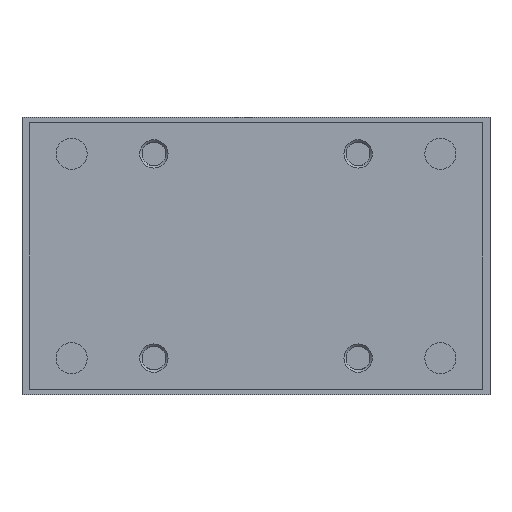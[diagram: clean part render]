
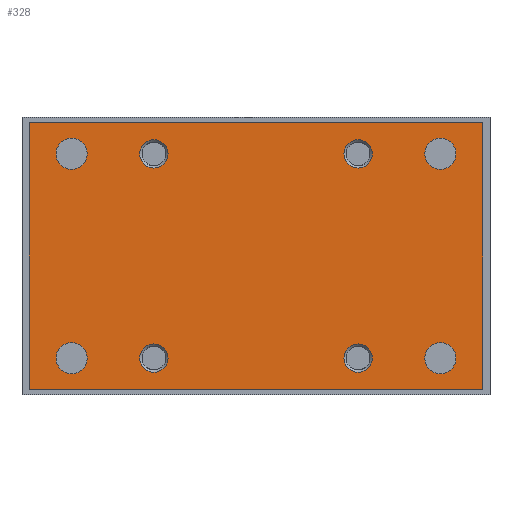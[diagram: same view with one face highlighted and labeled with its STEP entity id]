
A CAD part, left-side view. The second image highlights one B-rep face of the part: STEP entity #328.
In plain terms, the highlighted planar face has unit normal (-1, 0, 0).
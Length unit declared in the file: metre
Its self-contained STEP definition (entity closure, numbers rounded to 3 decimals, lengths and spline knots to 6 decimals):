
#328 = ADVANCED_FACE( '', ( #880, #881, #882, #883, #884, #885, #886, #887, #888 ), #889, .F. );
#880 = FACE_BOUND( '', #1838, .T. );
#881 = FACE_BOUND( '', #1839, .T. );
#882 = FACE_BOUND( '', #1840, .T. );
#883 = FACE_BOUND( '', #1841, .T. );
#884 = FACE_BOUND( '', #1842, .T. );
#885 = FACE_BOUND( '', #1843, .T. );
#886 = FACE_BOUND( '', #1844, .T. );
#887 = FACE_BOUND( '', #1845, .T. );
#888 = FACE_OUTER_BOUND( '', #1846, .T. );
#889 = PLANE( '', #1847 );
#1838 = EDGE_LOOP( '', ( #2881 ) );
#1839 = EDGE_LOOP( '', ( #2882 ) );
#1840 = EDGE_LOOP( '', ( #2883 ) );
#1841 = EDGE_LOOP( '', ( #2884 ) );
#1842 = EDGE_LOOP( '', ( #2885 ) );
#1843 = EDGE_LOOP( '', ( #2886 ) );
#1844 = EDGE_LOOP( '', ( #2887 ) );
#1845 = EDGE_LOOP( '', ( #2888 ) );
#1846 = EDGE_LOOP( '', ( #2889, #2890, #2891, #2892 ) );
#1847 = AXIS2_PLACEMENT_3D( '', #2893, #2894, #2895 );
#2881 = ORIENTED_EDGE( '', *, *, #4585, .T. );
#2882 = ORIENTED_EDGE( '', *, *, #4586, .T. );
#2883 = ORIENTED_EDGE( '', *, *, #4587, .T. );
#2884 = ORIENTED_EDGE( '', *, *, #4588, .T. );
#2885 = ORIENTED_EDGE( '', *, *, #4528, .T. );
#2886 = ORIENTED_EDGE( '', *, *, #4589, .F. );
#2887 = ORIENTED_EDGE( '', *, *, #4505, .F. );
#2888 = ORIENTED_EDGE( '', *, *, #4590, .T. );
#2889 = ORIENTED_EDGE( '', *, *, #4591, .T. );
#2890 = ORIENTED_EDGE( '', *, *, #4518, .T. );
#2891 = ORIENTED_EDGE( '', *, *, #4564, .T. );
#2892 = ORIENTED_EDGE( '', *, *, #4592, .T. );
#2893 = CARTESIAN_POINT( '', ( -0.107, -0.08, -0.096 ) );
#2894 = DIRECTION( '', ( 1., 0., 0. ) );
#2895 = DIRECTION( '', ( 0., 0., -1. ) );
#4505 = EDGE_CURVE( '', #5181, #5181, #5182, .T. );
#4518 = EDGE_CURVE( '', #5206, #5204, #5207, .T. );
#4528 = EDGE_CURVE( '', #5222, #5222, #5223, .T. );
#4564 = EDGE_CURVE( '', #5204, #5280, #5282, .T. );
#4585 = EDGE_CURVE( '', #5316, #5316, #5317, .T. );
#4586 = EDGE_CURVE( '', #5318, #5318, #5319, .T. );
#4587 = EDGE_CURVE( '', #5320, #5320, #5321, .T. );
#4588 = EDGE_CURVE( '', #5322, #5322, #5323, .T. );
#4589 = EDGE_CURVE( '', #5324, #5324, #5325, .T. );
#4590 = EDGE_CURVE( '', #5326, #5326, #5327, .T. );
#4591 = EDGE_CURVE( '', #5328, #5206, #5329, .T. );
#4592 = EDGE_CURVE( '', #5280, #5328, #5330, .T. );
#5181 = VERTEX_POINT( '', #6142 );
#5182 = CIRCLE( '', #6143, 0.005 );
#5204 = VERTEX_POINT( '', #6174 );
#5206 = VERTEX_POINT( '', #6177 );
#5207 = LINE( '', #6178, #6179 );
#5222 = VERTEX_POINT( '', #6195 );
#5223 = CIRCLE( '', #6196, 0.005 );
#5280 = VERTEX_POINT( '', #6302 );
#5282 = LINE( '', #6305, #6306 );
#5316 = VERTEX_POINT( '', #6352 );
#5317 = CIRCLE( '', #6353, 0.0055 );
#5318 = VERTEX_POINT( '', #6354 );
#5319 = CIRCLE( '', #6355, 0.0055 );
#5320 = VERTEX_POINT( '', #6356 );
#5321 = CIRCLE( '', #6357, 0.0055 );
#5322 = VERTEX_POINT( '', #6358 );
#5323 = CIRCLE( '', #6359, 0.0055 );
#5324 = VERTEX_POINT( '', #6360 );
#5325 = CIRCLE( '', #6361, 0.005 );
#5326 = VERTEX_POINT( '', #6362 );
#5327 = CIRCLE( '', #6363, 0.005 );
#5328 = VERTEX_POINT( '', #6364 );
#5329 = LINE( '', #6365, #6366 );
#5330 = LINE( '', #6367, #6368 );
#6142 = CARTESIAN_POINT( '', ( -0.107, -0.036, -0.008 ) );
#6143 = AXIS2_PLACEMENT_3D( '', #7546, #7547, #7548 );
#6174 = CARTESIAN_POINT( '', ( -0.107, 0.08, -0.002 ) );
#6177 = CARTESIAN_POINT( '', ( -0.107, -0.08, -0.002 ) );
#6178 = CARTESIAN_POINT( '', ( -0.107, -0.08, -0.002 ) );
#6179 = VECTOR( '', #7559, 1. );
#6195 = CARTESIAN_POINT( '', ( -0.107, -0.036, -0.09 ) );
#6196 = AXIS2_PLACEMENT_3D( '', #7576, #7577, #7578 );
#6302 = CARTESIAN_POINT( '', ( -0.107, 0.08, -0.096 ) );
#6305 = CARTESIAN_POINT( '', ( -0.107, 0.08, -0.002 ) );
#6306 = VECTOR( '', #7617, 1. );
#6352 = CARTESIAN_POINT( '', ( -0.107, -0.0595, -0.085 ) );
#6353 = AXIS2_PLACEMENT_3D( '', #7639, #7640, #7641 );
#6354 = CARTESIAN_POINT( '', ( -0.107, 0.0705, -0.085 ) );
#6355 = AXIS2_PLACEMENT_3D( '', #7642, #7643, #7644 );
#6356 = CARTESIAN_POINT( '', ( -0.107, -0.0595, -0.013 ) );
#6357 = AXIS2_PLACEMENT_3D( '', #7645, #7646, #7647 );
#6358 = CARTESIAN_POINT( '', ( -0.107, 0.0705, -0.013 ) );
#6359 = AXIS2_PLACEMENT_3D( '', #7648, #7649, #7650 );
#6360 = CARTESIAN_POINT( '', ( -0.107, 0.036, -0.09 ) );
#6361 = AXIS2_PLACEMENT_3D( '', #7651, #7652, #7653 );
#6362 = CARTESIAN_POINT( '', ( -0.107, 0.036, -0.008 ) );
#6363 = AXIS2_PLACEMENT_3D( '', #7654, #7655, #7656 );
#6364 = CARTESIAN_POINT( '', ( -0.107, -0.08, -0.096 ) );
#6365 = CARTESIAN_POINT( '', ( -0.107, -0.08, -0.096 ) );
#6366 = VECTOR( '', #7657, 1. );
#6367 = CARTESIAN_POINT( '', ( -0.107, 0.08, -0.096 ) );
#6368 = VECTOR( '', #7658, 1. );
#7546 = CARTESIAN_POINT( '', ( -0.107, -0.036, -0.013 ) );
#7547 = DIRECTION( '', ( -1., 0., 0. ) );
#7548 = DIRECTION( '', ( 0., 0., 1. ) );
#7559 = DIRECTION( '', ( 0., 1., 0. ) );
#7576 = CARTESIAN_POINT( '', ( -0.107, -0.036, -0.085 ) );
#7577 = DIRECTION( '', ( 1., 0., 0. ) );
#7578 = DIRECTION( '', ( 0., 0., -1. ) );
#7617 = DIRECTION( '', ( 0., 0., -1. ) );
#7639 = CARTESIAN_POINT( '', ( -0.107, -0.065, -0.085 ) );
#7640 = DIRECTION( '', ( 1., 0., 0. ) );
#7641 = DIRECTION( '', ( 0., 1., 0. ) );
#7642 = CARTESIAN_POINT( '', ( -0.107, 0.065, -0.085 ) );
#7643 = DIRECTION( '', ( 1., 0., 0. ) );
#7644 = DIRECTION( '', ( 0., 1., 0. ) );
#7645 = CARTESIAN_POINT( '', ( -0.107, -0.065, -0.013 ) );
#7646 = DIRECTION( '', ( 1., 0., 0. ) );
#7647 = DIRECTION( '', ( 0., 1., 0. ) );
#7648 = CARTESIAN_POINT( '', ( -0.107, 0.065, -0.013 ) );
#7649 = DIRECTION( '', ( 1., 0., 0. ) );
#7650 = DIRECTION( '', ( 0., 1., 0. ) );
#7651 = CARTESIAN_POINT( '', ( -0.107, 0.036, -0.085 ) );
#7652 = DIRECTION( '', ( -1., 0., 0. ) );
#7653 = DIRECTION( '', ( 0., 0., -1. ) );
#7654 = CARTESIAN_POINT( '', ( -0.107, 0.036, -0.013 ) );
#7655 = DIRECTION( '', ( 1., 0., 0. ) );
#7656 = DIRECTION( '', ( 0., 0., 1. ) );
#7657 = DIRECTION( '', ( 0., 0., 1. ) );
#7658 = DIRECTION( '', ( 0., -1., 0. ) );
